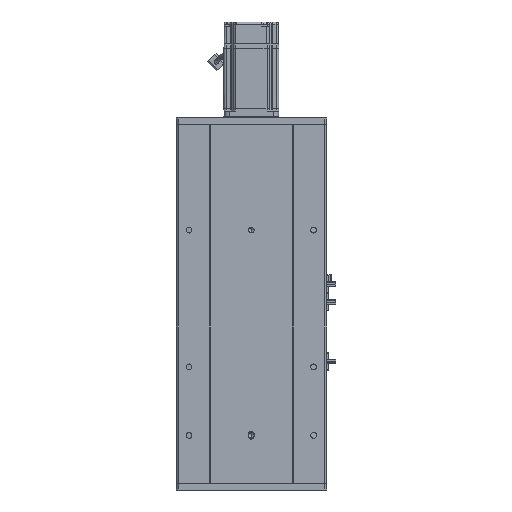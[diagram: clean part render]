
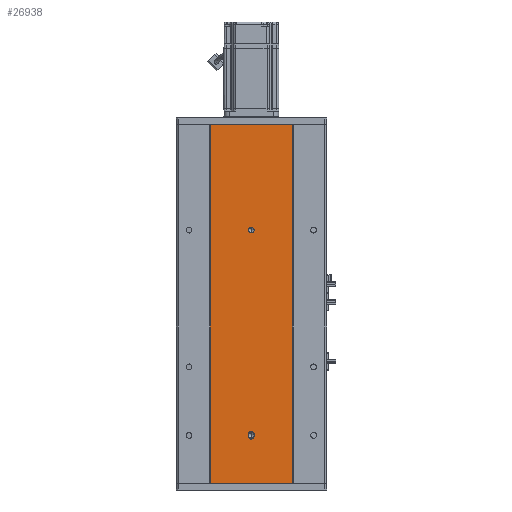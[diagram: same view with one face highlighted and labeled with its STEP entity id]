
A CAD part, front view. The second image highlights one B-rep face of the part: STEP entity #26938.
In plain terms, the highlighted planar face has unit normal (0, -1, 0).
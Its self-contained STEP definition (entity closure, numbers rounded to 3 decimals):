
#135 = CARTESIAN_POINT ( 'NONE',  ( 60., 0., 524. ) ) ;
#475 = ORIENTED_EDGE ( 'NONE', *, *, #63189, .F. ) ;
#779 = LINE ( 'NONE', #61957, #24216 ) ;
#1063 = CARTESIAN_POINT ( 'NONE',  ( 4., 0., 71.5 ) ) ;
#2757 = DIRECTION ( 'NONE',  ( 0., -1., 0. ) ) ;
#4387 = LINE ( 'NONE', #54375, #49711 ) ;
#4860 = VERTEX_POINT ( 'NONE', #22632 ) ;
#4979 = DIRECTION ( 'NONE',  ( 0., 0., -1. ) ) ;
#7196 = CARTESIAN_POINT ( 'NONE',  ( 4., 0., 71.5 ) ) ;
#7372 = DIRECTION ( 'NONE',  ( 0., 0., -1. ) ) ;
#9426 = CARTESIAN_POINT ( 'NONE',  ( -60., 0., 524. ) ) ;
#10605 = EDGE_LOOP ( 'NONE', ( #42902, #49822, #45504, #13220, #34847 ) ) ;
#10608 = CARTESIAN_POINT ( 'NONE',  ( 4., 0., 68.5 ) ) ;
#10915 = VERTEX_POINT ( 'NONE', #58882 ) ;
#11769 = LINE ( 'NONE', #41053, #24233 ) ;
#12044 = CIRCLE ( 'NONE', #19104, 4. ) ;
#12987 = CIRCLE ( 'NONE', #18504, 4. ) ;
#13220 = ORIENTED_EDGE ( 'NONE', *, *, #40341, .F. ) ;
#13358 = CARTESIAN_POINT ( 'NONE',  ( -4., 0., 71.5 ) ) ;
#14494 = VERTEX_POINT ( 'NONE', #21526 ) ;
#14631 = DIRECTION ( 'NONE',  ( 0., -1., 0. ) ) ;
#16813 = DIRECTION ( 'NONE',  ( 0., 0., -1. ) ) ;
#18088 = LINE ( 'NONE', #7196, #31334 ) ;
#18504 = AXIS2_PLACEMENT_3D ( 'NONE', #55070, #14631, #60094 ) ;
#19104 = AXIS2_PLACEMENT_3D ( 'NONE', #37268, #2757, #7372 ) ;
#20329 = DIRECTION ( 'NONE',  ( 0., 0., -1. ) ) ;
#20387 = LINE ( 'NONE', #47363, #54834 ) ;
#21484 = EDGE_CURVE ( 'NONE', #24759, #41990, #58535, .T. ) ;
#21526 = CARTESIAN_POINT ( 'NONE',  ( -4., 0., 68.5 ) ) ;
#22214 = VERTEX_POINT ( 'NONE', #47465 ) ;
#22632 = CARTESIAN_POINT ( 'NONE',  ( 0., 0., 374. ) ) ;
#24169 = EDGE_CURVE ( 'NONE', #14494, #10915, #12987, .T. ) ;
#24216 = VECTOR ( 'NONE', #46808, 1000. ) ;
#24233 = VECTOR ( 'NONE', #20329, 1000. ) ;
#24759 = VERTEX_POINT ( 'NONE', #135 ) ;
#25241 = AXIS2_PLACEMENT_3D ( 'NONE', #44836, #54902, #54446 ) ;
#26221 = DIRECTION ( 'NONE',  ( 0., -1., 0. ) ) ;
#26938 = ADVANCED_FACE ( 'NONE', ( #30197, #37216, #62287 ), #58932, .F. ) ;
#27241 = ORIENTED_EDGE ( 'NONE', *, *, #61485, .T. ) ;
#29132 = AXIS2_PLACEMENT_3D ( 'NONE', #36031, #26221, #16813 ) ;
#29725 = DIRECTION ( 'NONE',  ( 0., -1., 0. ) ) ;
#30197 = FACE_BOUND ( 'NONE', #45222, .T. ) ;
#31334 = VECTOR ( 'NONE', #62270, 1000. ) ;
#31558 = EDGE_CURVE ( 'NONE', #46968, #24759, #20387, .T. ) ;
#32684 = ORIENTED_EDGE ( 'NONE', *, *, #21484, .F. ) ;
#32814 = VERTEX_POINT ( 'NONE', #13358 ) ;
#34481 = EDGE_LOOP ( 'NONE', ( #27241, #32684, #64460, #42917 ) ) ;
#34647 = DIRECTION ( 'NONE',  ( 0., 1., 0. ) ) ;
#34794 = CIRCLE ( 'NONE', #50569, 4. ) ;
#34847 = ORIENTED_EDGE ( 'NONE', *, *, #24169, .F. ) ;
#35510 = CARTESIAN_POINT ( 'NONE',  ( 60., 0., 0. ) ) ;
#36031 = CARTESIAN_POINT ( 'NONE',  ( 0., 0., 71.5 ) ) ;
#37003 = VERTEX_POINT ( 'NONE', #1063 ) ;
#37216 = FACE_BOUND ( 'NONE', #10605, .T. ) ;
#37268 = CARTESIAN_POINT ( 'NONE',  ( 0., 0., 370. ) ) ;
#37852 = CARTESIAN_POINT ( 'NONE',  ( -60., 0., 0. ) ) ;
#38711 = EDGE_CURVE ( 'NONE', #22214, #4860, #12044, .T. ) ;
#39010 = VERTEX_POINT ( 'NONE', #10608 ) ;
#39561 = DIRECTION ( 'NONE',  ( 0., 0., -1. ) ) ;
#40341 = EDGE_CURVE ( 'NONE', #10915, #39010, #34794, .T. ) ;
#41053 = CARTESIAN_POINT ( 'NONE',  ( -60., 0., 524. ) ) ;
#41990 = VERTEX_POINT ( 'NONE', #35510 ) ;
#42837 = EDGE_CURVE ( 'NONE', #39010, #37003, #18088, .T. ) ;
#42902 = ORIENTED_EDGE ( 'NONE', *, *, #57484, .F. ) ;
#42917 = ORIENTED_EDGE ( 'NONE', *, *, #54798, .T. ) ;
#44836 = CARTESIAN_POINT ( 'NONE',  ( 0., 0., 370. ) ) ;
#45222 = EDGE_LOOP ( 'NONE', ( #50720, #475 ) ) ;
#45504 = ORIENTED_EDGE ( 'NONE', *, *, #42837, .F. ) ;
#45841 = CIRCLE ( 'NONE', #29132, 4. ) ;
#46808 = DIRECTION ( 'NONE',  ( 1., 0., 0. ) ) ;
#46968 = VERTEX_POINT ( 'NONE', #9426 ) ;
#47118 = EDGE_CURVE ( 'NONE', #37003, #32814, #45841, .T. ) ;
#47171 = DIRECTION ( 'NONE',  ( 1., 0., 0. ) ) ;
#47363 = CARTESIAN_POINT ( 'NONE',  ( -60., 0., 524. ) ) ;
#47407 = CIRCLE ( 'NONE', #25241, 4. ) ;
#47465 = CARTESIAN_POINT ( 'NONE',  ( 0., 0., 366. ) ) ;
#47499 = AXIS2_PLACEMENT_3D ( 'NONE', #49501, #34647, #49909 ) ;
#49501 = CARTESIAN_POINT ( 'NONE',  ( -60., 0., 524. ) ) ;
#49711 = VECTOR ( 'NONE', #4979, 1000. ) ;
#49822 = ORIENTED_EDGE ( 'NONE', *, *, #47118, .F. ) ;
#49909 = DIRECTION ( 'NONE',  ( 0., 0., 1. ) ) ;
#50569 = AXIS2_PLACEMENT_3D ( 'NONE', #60370, #29725, #39561 ) ;
#50720 = ORIENTED_EDGE ( 'NONE', *, *, #38711, .F. ) ;
#54375 = CARTESIAN_POINT ( 'NONE',  ( -4., 0., 71.5 ) ) ;
#54446 = DIRECTION ( 'NONE',  ( 0., 0., -1. ) ) ;
#54783 = DIRECTION ( 'NONE',  ( 0., 0., -1. ) ) ;
#54798 = EDGE_CURVE ( 'NONE', #46968, #56113, #11769, .T. ) ;
#54834 = VECTOR ( 'NONE', #47171, 1000. ) ;
#54902 = DIRECTION ( 'NONE',  ( 0., -1., 0. ) ) ;
#55070 = CARTESIAN_POINT ( 'NONE',  ( 0., 0., 68.5 ) ) ;
#55413 = VECTOR ( 'NONE', #54783, 1000. ) ;
#56113 = VERTEX_POINT ( 'NONE', #37852 ) ;
#57484 = EDGE_CURVE ( 'NONE', #32814, #14494, #4387, .T. ) ;
#58535 = LINE ( 'NONE', #60261, #55413 ) ;
#58882 = CARTESIAN_POINT ( 'NONE',  ( 0., 0., 64.5 ) ) ;
#58932 = PLANE ( 'NONE',  #47499 ) ;
#60094 = DIRECTION ( 'NONE',  ( 0., 0., -1. ) ) ;
#60261 = CARTESIAN_POINT ( 'NONE',  ( 60., 0., 524. ) ) ;
#60370 = CARTESIAN_POINT ( 'NONE',  ( 0., 0., 68.5 ) ) ;
#61485 = EDGE_CURVE ( 'NONE', #56113, #41990, #779, .T. ) ;
#61957 = CARTESIAN_POINT ( 'NONE',  ( -60., 0., 0. ) ) ;
#62270 = DIRECTION ( 'NONE',  ( 0., 0., 1. ) ) ;
#62287 = FACE_OUTER_BOUND ( 'NONE', #34481, .T. ) ;
#63189 = EDGE_CURVE ( 'NONE', #4860, #22214, #47407, .T. ) ;
#64460 = ORIENTED_EDGE ( 'NONE', *, *, #31558, .F. ) ;
